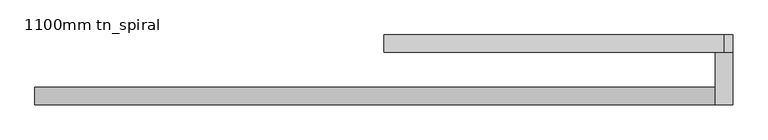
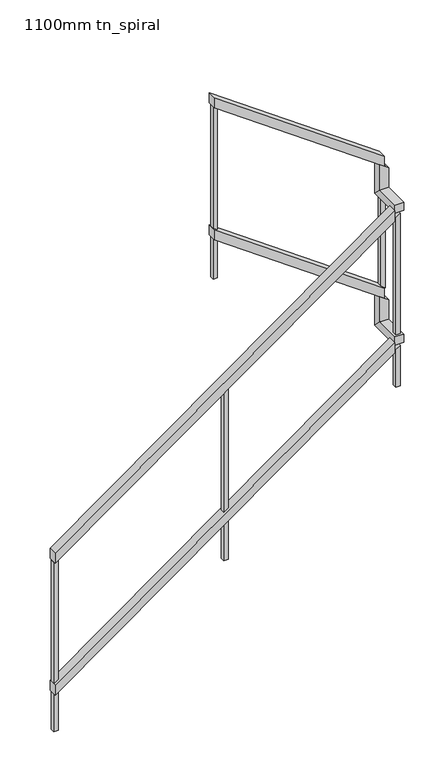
"""IFC4 building model written with IfcOpenShell, lengths in millimetres: railing geometry, 1100mm tn_spiral."""

from ifc_helpers import new_model, si_unit, frame, origin, place, context, project, spatial, polyline, outline, extrude, faceted_brep, source, transform, mapped, element, save


def railing_1100mm_tn_spiral_6a29a33d(model_context):
    return source(origin(), model_context, "Body", "SolidModel", [
        faceted_brep([(-1114.1513993, -11037.7605322, 578.5714286), (-1114.1513993, -11037.7605322, 517.1262481), (-1114.1513993, -11087.7605322, 517.1262481), (-1114.1513993, -11087.7605322, 578.5714286), (835.8486007, -11037.7605322, 1971.4285714), (835.8486007, -11087.7605322, 1971.4285714), (835.8486007, -11087.7605322, 1909.9833909), (835.8486007, -11037.7605322, 1909.9833909)], [[[0, 1, 2, 3]], [[4, 5, 6, 7]], [[0, 3, 5, 4]], [[3, 2, 6, 5]], [[2, 1, 7, 6]], [[1, 0, 4, 7]]]),
        faceted_brep([(835.8486007, -11087.7605322, 2007.1428571), (835.8486007, -11087.7605322, 1957.1428571), (885.8486007, -11087.7605322, 1957.1428571), (885.8486007, -11087.7605322, 2007.1428571), (885.8486007, -10937.7605322, 2007.1428571), (835.8486007, -10937.7605322, 2007.1428571), (885.8486007, -10887.7605322, 1957.1428571), (835.8486007, -10887.7605322, 1957.1428571), (835.8486007, -10937.7605322, 2159.9833909), (885.8486007, -10937.7605322, 2124.2691052), (885.8486007, -10887.7605322, 2124.2691052), (835.8486007, -10887.7605322, 2159.9833909)], [[[0, 1, 2, 3]], [[0, 3, 4, 5]], [[3, 2, 6, 4]], [[2, 1, 7, 6]], [[1, 0, 5, 7]], [[8, 9, 10, 11]], [[5, 4, 9, 8]], [[4, 6, 10, 9]], [[6, 7, 11, 10]], [[7, 5, 8, 11]]]),
        faceted_brep([(860.8486007, -10937.7605322, 2203.5714286), (860.8486007, -10937.7605322, 2142.1262481), (860.8486007, -10887.7605322, 2142.1262481), (860.8486007, -10887.7605322, 2203.5714286), (-114.1513993, -10937.7605322, 2900.0), (-114.1513993, -10887.7605322, 2900.0), (-114.1513993, -10887.7605322, 2838.5548195), (-114.1513993, -10937.7605322, 2838.5548195)], [[[0, 1, 2, 3]], [[4, 5, 6, 7]], [[0, 3, 5, 4]], [[3, 2, 6, 5]], [[2, 1, 7, 6]], [[1, 0, 4, 7]]]),
        faceted_brep([(-1114.1513993, -11037.7605322, 1378.5714286), (-1114.1513993, -11037.7605322, 1317.1262481), (-1114.1513993, -11087.7605322, 1317.1262481), (-1114.1513993, -11087.7605322, 1378.5714286), (835.8486007, -11037.7605322, 2771.4285714), (835.8486007, -11087.7605322, 2771.4285714), (835.8486007, -11087.7605322, 2709.9833909), (835.8486007, -11037.7605322, 2709.9833909)], [[[0, 1, 2, 3]], [[4, 5, 6, 7]], [[0, 3, 5, 4]], [[3, 2, 6, 5]], [[2, 1, 7, 6]], [[1, 0, 4, 7]]]),
        faceted_brep([(835.8486007, -11087.7605322, 2807.1428571), (835.8486007, -11087.7605322, 2757.1428571), (885.8486007, -11087.7605322, 2757.1428571), (885.8486007, -11087.7605322, 2807.1428571), (885.8486007, -10937.7605322, 2807.1428571), (835.8486007, -10937.7605322, 2807.1428571), (885.8486007, -10887.7605322, 2757.1428571), (835.8486007, -10887.7605322, 2757.1428571), (835.8486007, -10937.7605322, 2959.9833909), (885.8486007, -10937.7605322, 2924.2691052), (885.8486007, -10887.7605322, 2924.2691052), (835.8486007, -10887.7605322, 2959.9833909)], [[[0, 1, 2, 3]], [[0, 3, 4, 5]], [[3, 2, 6, 4]], [[2, 1, 7, 6]], [[1, 0, 5, 7]], [[8, 9, 10, 11]], [[5, 4, 9, 8]], [[4, 6, 10, 9]], [[6, 7, 11, 10]], [[7, 5, 8, 11]]]),
        faceted_brep([(860.8486007, -10937.7605322, 3003.5714286), (860.8486007, -10937.7605322, 2942.1262481), (860.8486007, -10887.7605322, 2942.1262481), (860.8486007, -10887.7605322, 3003.5714286), (-114.1513993, -10937.7605322, 3700.0), (-114.1513993, -10887.7605322, 3700.0), (-114.1513993, -10887.7605322, 3638.5548195), (-114.1513993, -10937.7605322, 3638.5548195)], [[[0, 1, 2, 3]], [[4, 5, 6, 7]], [[0, 3, 5, 4]], [[3, 2, 6, 5]], [[2, 1, 7, 6]], [[1, 0, 4, 7]]]),
        extrude(outline(polyline([(2933.1976767, 873.3486007), (2951.0548195, 848.3486007), (2212.5, 848.3486007), (2194.6428571, 873.3486007), (2933.1976767, 873.3486007)])), frame((0.0, -10925.2605322, 0.0), z_axis=(0.0, 1.0, 0.0), x_axis=(0.0, 0.0, 1.0)), (0.0, 0.0, 1.0), 25.0),
        extrude(outline(polyline([(1980.3571429, 848.3486007), (1998.2142857, 873.3486007), (2736.7691052, 873.3486007), (2718.9119624, 848.3486007), (1980.3571429, 848.3486007)])), frame((0.0, -11075.2605322, 0.0), z_axis=(0.0, 1.0, 0.0), x_axis=(0.0, 0.0, 1.0)), (0.0, 0.0, 1.0), 25.0),
        extrude(outline(polyline([(1689.2857143, 848.3486007), (1689.2857143, 873.3486007), (1936.7691052, 873.3486007), (1918.9119624, 848.3486007), (1689.2857143, 848.3486007)])), frame((0.0, -11075.2605322, 0.0), z_axis=(0.0, 1.0, 0.0), x_axis=(0.0, 0.0, 1.0)), (0.0, 0.0, 1.0), 25.0),
        extrude(outline(polyline([(1275.0, -139.1513993), (1292.8571429, -114.1513993), (2031.4119624, -114.1513993), (2013.5548195, -139.1513993), (1275.0, -139.1513993)])), frame((0.0, -11075.2605322, 0.0), z_axis=(0.0, 1.0, 0.0), x_axis=(0.0, 0.0, 1.0)), (0.0, 0.0, 1.0), 25.0),
        extrude(outline(polyline([(983.9285714, -139.1513993), (983.9285714, -114.1513993), (1231.4119624, -114.1513993), (1213.5548195, -139.1513993), (983.9285714, -139.1513993)])), frame((0.0, -11075.2605322, 0.0), z_axis=(0.0, 1.0, 0.0), x_axis=(0.0, 0.0, 1.0)), (0.0, 0.0, 1.0), 25.0),
        extrude(outline(polyline([(3620.6976767, -89.1513993), (3638.5548195, -114.1513993), (2591.0714286, -114.1513993), (2591.0714286, -89.1513993), (3620.6976767, -89.1513993)])), frame((0.0, -10925.2605322, 0.0), z_axis=(0.0, 1.0, 0.0), x_axis=(0.0, 0.0, 1.0)), (0.0, 0.0, 1.0), 25.0),
        extrude(outline(polyline([(287.5, -1114.1513993), (287.5, -1089.1513993), (1334.9833909, -1089.1513993), (1317.1262481, -1114.1513993), (287.5, -1114.1513993)])), frame((0.0, -11075.2605322, 0.0), z_axis=(0.0, 1.0, 0.0), x_axis=(0.0, 0.0, 1.0)), (0.0, 0.0, 1.0), 25.0),
    ])


if __name__ == "__main__":
    model = new_model("IFC4")
    model_context = context("Model", 3, world=origin())
    ifc_project = project(units=[si_unit("LENGTHUNIT", "METRE", prefix="MILLI")], contexts=[model_context])
    site = spatial("IfcSite", under=ifc_project)
    building = spatial("IfcBuilding", under=site)
    placement = place(None, origin())
    railing_1100mm_tn_spiral_shape = railing_1100mm_tn_spiral_6a29a33d(model_context)
    element("IfcRailing", 1, ObjectType="1100mm tn_spiral", at=placement, inside=building, context=model_context, shape_type="MappedRepresentation", body=[
        mapped(railing_1100mm_tn_spiral_shape, transform((0.0, 0.0, 0.0), x_axis=(1.0, 0.0, 0.0), y_axis=(0.0, 1.0, 0.0), z_axis=(0.0, 0.0, 1.0))),
    ])
    save(model, "model.ifc")
